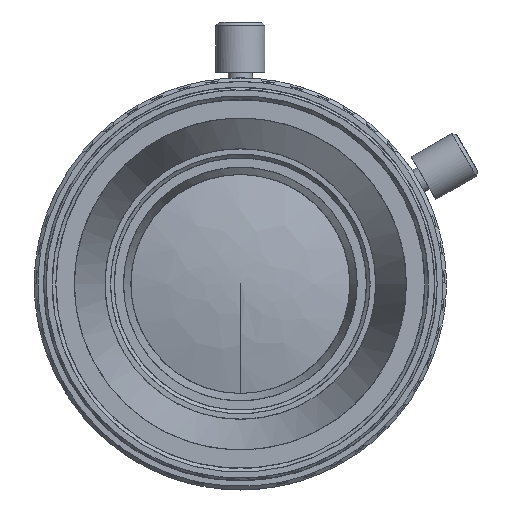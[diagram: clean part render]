
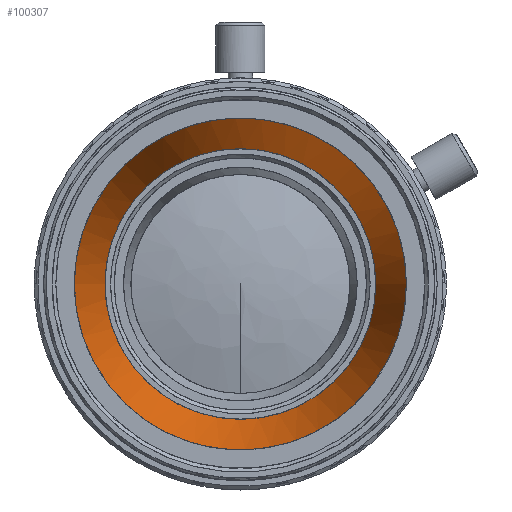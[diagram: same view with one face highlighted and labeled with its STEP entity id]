
A CAD part, front view. The second image highlights one B-rep face of the part: STEP entity #100307.
In plain terms, the highlighted free-form (B-spline) face has degree [1, 3] with [3, 7] control points.
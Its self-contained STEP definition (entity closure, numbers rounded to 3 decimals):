
#100307 = ADVANCED_FACE('',(#100308),#100323,.T.);
#100308 = FACE_BOUND('',#100309,.T.);
#100309 = EDGE_LOOP('',(#100310,#100350,#100366,#100380,#100396,#100412)
  );
#100310 = ORIENTED_EDGE('',*,*,#100311,.T.);
#100311 = EDGE_CURVE('',#100312,#100314,#100316,.T.);
#100312 = VERTEX_POINT('',#100313);
#100313 = CARTESIAN_POINT('',(11.,-30.89,0.));
#100314 = VERTEX_POINT('',#100315);
#100315 = CARTESIAN_POINT('',(-11.,-30.89,0.));
#100316 = SURFACE_CURVE('',#100317,(#100322),.PCURVE_S1.);
#100317 = ( BOUNDED_CURVE() B_SPLINE_CURVE(3,(#100318,#100319,#100320,
#100321),.UNSPECIFIED.,.F.,.F.) B_SPLINE_CURVE_WITH_KNOTS((4,4),(
-6.283,-3.142),.PIECEWISE_BEZIER_KNOTS.) CURVE() 
GEOMETRIC_REPRESENTATION_ITEM() RATIONAL_B_SPLINE_CURVE((1.,
0.333,0.333,1.)) REPRESENTATION_ITEM('') );
#100318 = CARTESIAN_POINT('',(11.,-30.89,0.));
#100319 = CARTESIAN_POINT('',(11.,-30.89,-22.));
#100320 = CARTESIAN_POINT('',(-11.,-30.89,-22.));
#100321 = CARTESIAN_POINT('',(-11.,-30.89,0.));
#100322 = PCURVE('',#100323,#100345);
#100323 = ( BOUNDED_SURFACE() B_SPLINE_SURFACE(1,3,(
    (#100324,#100325,#100326,#100327,#100328,#100329,#100330)
    ,(#100331,#100332,#100333,#100334,#100335,#100336,#100337)
    ,(#100338,#100339,#100340,#100341,#100342,#100343,#100344
)),.UNSPECIFIED.,.F.,.T.,.F.) B_SPLINE_SURFACE_WITH_KNOTS((2,1,2),(1,3,3
    ,3,1),(-1.909,-1.,0.),(-0.5,0.,0.5,1.,1.5),.UNSPECIFIED.) 
GEOMETRIC_REPRESENTATION_ITEM() RATIONAL_B_SPLINE_SURFACE((
    (1.,0.333,0.333,1.,0.333,0.333
      ,1.)
    ,(1.,0.333,0.333,1.,0.333,0.333
      ,1.)
    ,(1.,0.333,0.333,1.,0.333,0.333
,1.))) REPRESENTATION_ITEM('') SURFACE() );
#100324 = CARTESIAN_POINT('',(8.5,-23.29,0.));
#100325 = CARTESIAN_POINT('',(8.5,-23.29,17.));
#100326 = CARTESIAN_POINT('',(-8.5,-23.29,17.));
#100327 = CARTESIAN_POINT('',(-8.5,-23.29,0.));
#100328 = CARTESIAN_POINT('',(-8.5,-23.29,-17.));
#100329 = CARTESIAN_POINT('',(8.5,-23.29,-17.));
#100330 = CARTESIAN_POINT('',(8.5,-23.29,0.));
#100331 = CARTESIAN_POINT('',(11.,-30.89,0.));
#100332 = CARTESIAN_POINT('',(11.,-30.89,22.));
#100333 = CARTESIAN_POINT('',(-11.,-30.89,22.));
#100334 = CARTESIAN_POINT('',(-11.,-30.89,0.));
#100335 = CARTESIAN_POINT('',(-11.,-30.89,-22.));
#100336 = CARTESIAN_POINT('',(11.,-30.89,-22.));
#100337 = CARTESIAN_POINT('',(11.,-30.89,0.));
#100338 = CARTESIAN_POINT('',(13.75,-39.25,0.));
#100339 = CARTESIAN_POINT('',(13.75,-39.25,27.5));
#100340 = CARTESIAN_POINT('',(-13.75,-39.25,27.5));
#100341 = CARTESIAN_POINT('',(-13.75,-39.25,0.));
#100342 = CARTESIAN_POINT('',(-13.75,-39.25,-27.5));
#100343 = CARTESIAN_POINT('',(13.75,-39.25,-27.5));
#100344 = CARTESIAN_POINT('',(13.75,-39.25,0.));
#100345 = DEFINITIONAL_REPRESENTATION('',(#100346),#100349);
#100346 = B_SPLINE_CURVE_WITH_KNOTS('',1,(#100347,#100348),
  .UNSPECIFIED.,.F.,.F.,(2,2),(-6.283,-3.142),
  .PIECEWISE_BEZIER_KNOTS.);
#100347 = CARTESIAN_POINT('',(-1.,1.));
#100348 = CARTESIAN_POINT('',(-1.,0.5));
#100349 = ( GEOMETRIC_REPRESENTATION_CONTEXT(2) 
PARAMETRIC_REPRESENTATION_CONTEXT() REPRESENTATION_CONTEXT('',''
  ) );
#100350 = ORIENTED_EDGE('',*,*,#100351,.T.);
#100351 = EDGE_CURVE('',#100314,#100352,#100354,.T.);
#100352 = VERTEX_POINT('',#100353);
#100353 = CARTESIAN_POINT('',(11.,-30.89,0.));
#100354 = SURFACE_CURVE('',#100355,(#100360),.PCURVE_S1.);
#100355 = ( BOUNDED_CURVE() B_SPLINE_CURVE(3,(#100356,#100357,#100358,
#100359),.UNSPECIFIED.,.F.,.F.) B_SPLINE_CURVE_WITH_KNOTS((4,4),(
-3.142,0.),.PIECEWISE_BEZIER_KNOTS.) CURVE() 
GEOMETRIC_REPRESENTATION_ITEM() RATIONAL_B_SPLINE_CURVE((1.,
0.333,0.333,1.)) REPRESENTATION_ITEM('') );
#100356 = CARTESIAN_POINT('',(-11.,-30.89,0.));
#100357 = CARTESIAN_POINT('',(-11.,-30.89,22.));
#100358 = CARTESIAN_POINT('',(11.,-30.89,22.));
#100359 = CARTESIAN_POINT('',(11.,-30.89,0.));
#100360 = PCURVE('',#100323,#100361);
#100361 = DEFINITIONAL_REPRESENTATION('',(#100362),#100365);
#100362 = B_SPLINE_CURVE_WITH_KNOTS('',1,(#100363,#100364),
  .UNSPECIFIED.,.F.,.F.,(2,2),(-3.142,0.),
  .PIECEWISE_BEZIER_KNOTS.);
#100363 = CARTESIAN_POINT('',(-1.,0.5));
#100364 = CARTESIAN_POINT('',(-1.,0.));
#100365 = ( GEOMETRIC_REPRESENTATION_CONTEXT(2) 
PARAMETRIC_REPRESENTATION_CONTEXT() REPRESENTATION_CONTEXT('',''
  ) );
#100366 = ORIENTED_EDGE('',*,*,#100367,.T.);
#100367 = EDGE_CURVE('',#100352,#100368,#100370,.T.);
#100368 = VERTEX_POINT('',#100369);
#100369 = CARTESIAN_POINT('',(13.5,-38.49,0.));
#100370 = SURFACE_CURVE('',#100371,(#100374),.PCURVE_S1.);
#100371 = B_SPLINE_CURVE_WITH_KNOTS('',1,(#100372,#100373),
  .UNSPECIFIED.,.F.,.F.,(2,2),(0.,0.008),
  .PIECEWISE_BEZIER_KNOTS.);
#100372 = CARTESIAN_POINT('',(11.,-30.89,0.));
#100373 = CARTESIAN_POINT('',(13.5,-38.49,0.));
#100374 = PCURVE('',#100323,#100375);
#100375 = DEFINITIONAL_REPRESENTATION('',(#100376),#100379);
#100376 = B_SPLINE_CURVE_WITH_KNOTS('',1,(#100377,#100378),
  .UNSPECIFIED.,.F.,.F.,(2,2),(0.,0.008),
  .PIECEWISE_BEZIER_KNOTS.);
#100377 = CARTESIAN_POINT('',(-1.,0.));
#100378 = CARTESIAN_POINT('',(-0.091,0.));
#100379 = ( GEOMETRIC_REPRESENTATION_CONTEXT(2) 
PARAMETRIC_REPRESENTATION_CONTEXT() REPRESENTATION_CONTEXT('',''
  ) );
#100380 = ORIENTED_EDGE('',*,*,#100381,.T.);
#100381 = EDGE_CURVE('',#100368,#100382,#100384,.T.);
#100382 = VERTEX_POINT('',#100383);
#100383 = CARTESIAN_POINT('',(-13.5,-38.49,0.));
#100384 = SURFACE_CURVE('',#100385,(#100390),.PCURVE_S1.);
#100385 = ( BOUNDED_CURVE() B_SPLINE_CURVE(3,(#100386,#100387,#100388,
#100389),.UNSPECIFIED.,.F.,.F.) B_SPLINE_CURVE_WITH_KNOTS((4,4),(0.,
3.142),.PIECEWISE_BEZIER_KNOTS.) CURVE() 
GEOMETRIC_REPRESENTATION_ITEM() RATIONAL_B_SPLINE_CURVE((1.,
0.333,0.333,1.)) REPRESENTATION_ITEM('') );
#100386 = CARTESIAN_POINT('',(13.5,-38.49,0.));
#100387 = CARTESIAN_POINT('',(13.5,-38.49,27.));
#100388 = CARTESIAN_POINT('',(-13.5,-38.49,27.));
#100389 = CARTESIAN_POINT('',(-13.5,-38.49,0.));
#100390 = PCURVE('',#100323,#100391);
#100391 = DEFINITIONAL_REPRESENTATION('',(#100392),#100395);
#100392 = B_SPLINE_CURVE_WITH_KNOTS('',1,(#100393,#100394),
  .UNSPECIFIED.,.F.,.F.,(2,2),(0.,3.142),
  .PIECEWISE_BEZIER_KNOTS.);
#100393 = CARTESIAN_POINT('',(-0.091,0.));
#100394 = CARTESIAN_POINT('',(-0.091,0.5));
#100395 = ( GEOMETRIC_REPRESENTATION_CONTEXT(2) 
PARAMETRIC_REPRESENTATION_CONTEXT() REPRESENTATION_CONTEXT('',''
  ) );
#100396 = ORIENTED_EDGE('',*,*,#100397,.T.);
#100397 = EDGE_CURVE('',#100382,#100398,#100400,.T.);
#100398 = VERTEX_POINT('',#100399);
#100399 = CARTESIAN_POINT('',(13.5,-38.49,0.));
#100400 = SURFACE_CURVE('',#100401,(#100406),.PCURVE_S1.);
#100401 = ( BOUNDED_CURVE() B_SPLINE_CURVE(3,(#100402,#100403,#100404,
#100405),.UNSPECIFIED.,.F.,.F.) B_SPLINE_CURVE_WITH_KNOTS((4,4),(
3.142,6.283),.PIECEWISE_BEZIER_KNOTS.) CURVE() 
GEOMETRIC_REPRESENTATION_ITEM() RATIONAL_B_SPLINE_CURVE((1.,
0.333,0.333,1.)) REPRESENTATION_ITEM('') );
#100402 = CARTESIAN_POINT('',(-13.5,-38.49,0.));
#100403 = CARTESIAN_POINT('',(-13.5,-38.49,-27.));
#100404 = CARTESIAN_POINT('',(13.5,-38.49,-27.));
#100405 = CARTESIAN_POINT('',(13.5,-38.49,0.));
#100406 = PCURVE('',#100323,#100407);
#100407 = DEFINITIONAL_REPRESENTATION('',(#100408),#100411);
#100408 = B_SPLINE_CURVE_WITH_KNOTS('',1,(#100409,#100410),
  .UNSPECIFIED.,.F.,.F.,(2,2),(3.142,6.283),
  .PIECEWISE_BEZIER_KNOTS.);
#100409 = CARTESIAN_POINT('',(-0.091,0.5));
#100410 = CARTESIAN_POINT('',(-0.091,1.));
#100411 = ( GEOMETRIC_REPRESENTATION_CONTEXT(2) 
PARAMETRIC_REPRESENTATION_CONTEXT() REPRESENTATION_CONTEXT('',''
  ) );
#100412 = ORIENTED_EDGE('',*,*,#100413,.T.);
#100413 = EDGE_CURVE('',#100398,#100312,#100414,.T.);
#100414 = SURFACE_CURVE('',#100415,(#100418),.PCURVE_S1.);
#100415 = B_SPLINE_CURVE_WITH_KNOTS('',1,(#100416,#100417),
  .UNSPECIFIED.,.F.,.F.,(2,2),(-0.008,0.),
  .PIECEWISE_BEZIER_KNOTS.);
#100416 = CARTESIAN_POINT('',(13.5,-38.49,0.));
#100417 = CARTESIAN_POINT('',(11.,-30.89,0.));
#100418 = PCURVE('',#100323,#100419);
#100419 = DEFINITIONAL_REPRESENTATION('',(#100420),#100423);
#100420 = B_SPLINE_CURVE_WITH_KNOTS('',1,(#100421,#100422),
  .UNSPECIFIED.,.F.,.F.,(2,2),(-0.008,0.),
  .PIECEWISE_BEZIER_KNOTS.);
#100421 = CARTESIAN_POINT('',(-0.091,1.));
#100422 = CARTESIAN_POINT('',(-1.,1.));
#100423 = ( GEOMETRIC_REPRESENTATION_CONTEXT(2) 
PARAMETRIC_REPRESENTATION_CONTEXT() REPRESENTATION_CONTEXT('',''
  ) );
